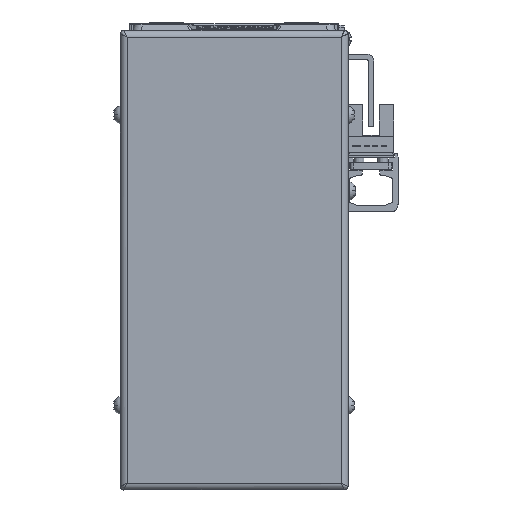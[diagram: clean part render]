
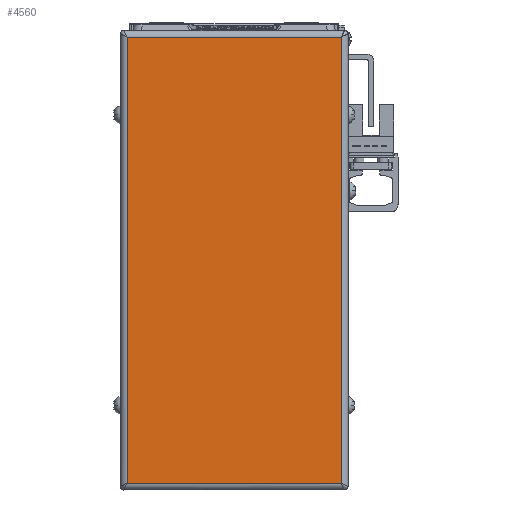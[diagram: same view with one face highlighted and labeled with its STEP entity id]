
A CAD part, left-side view. The second image highlights one B-rep face of the part: STEP entity #4560.
In plain terms, the highlighted planar face has unit normal (-1, 0, 0) as drawn and (0, 0, 1) by its records, which use the part's own axes.
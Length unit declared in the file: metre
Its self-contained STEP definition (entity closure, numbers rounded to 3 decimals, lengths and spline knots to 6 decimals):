
#4560=ADVANCED_FACE('',(#9615),#9616,.T.);
#9615=FACE_OUTER_BOUND('',#16157,.T.);
#9616=PLANE('',#16158);
#16157=EDGE_LOOP('',(#29758,#29759,#29760,#29761));
#16158=AXIS2_PLACEMENT_3D('',#29762,#29763,#29764);
#29758=ORIENTED_EDGE('',*,*,#41788,.F.);
#29759=ORIENTED_EDGE('',*,*,#42541,.F.);
#29760=ORIENTED_EDGE('',*,*,#41319,.F.);
#29761=ORIENTED_EDGE('',*,*,#41052,.F.);
#29762=CARTESIAN_POINT('',(-0.054,-0.014256,0.033889));
#29763=DIRECTION('',(0.0,0.0,1.0));
#29764=DIRECTION('',(1.0,0.0,0.0));
#41052=EDGE_CURVE('',#48775,#48777,#48778,.T.);
#41319=EDGE_CURVE('',#48777,#49229,#49230,.T.);
#41788=EDGE_CURVE('',#49942,#48775,#49944,.T.);
#42541=EDGE_CURVE('',#49229,#49942,#51025,.T.);
#48775=VERTEX_POINT('',#59395);
#48777=VERTEX_POINT('',#59406);
#48778=LINE('',#59407,#59408);
#49229=VERTEX_POINT('',#60038);
#49230=LINE('',#60039,#60040);
#49942=VERTEX_POINT('',#61073);
#49944=LINE('',#61084,#61085);
#51025=LINE('',#62831,#62832);
#59395=CARTESIAN_POINT('',(0.012,-0.045956,0.033889));
#59406=CARTESIAN_POINT('',(-0.12,-0.045956,0.033889));
#59407=CARTESIAN_POINT('',(-0.054,-0.045956,0.033889));
#59408=VECTOR('',#70582,1.0);
#60038=CARTESIAN_POINT('',(-0.12,0.017444,0.033889));
#60039=CARTESIAN_POINT('',(-0.12,-0.014256,0.033889));
#60040=VECTOR('',#70975,1.0);
#61073=CARTESIAN_POINT('',(0.012,0.017444,0.033889));
#61084=CARTESIAN_POINT('',(0.012,-0.014256,0.033889));
#61085=VECTOR('',#71515,1.0);
#62831=CARTESIAN_POINT('',(-0.054,0.017444,0.033889));
#62832=VECTOR('',#72311,1.0);
#70582=DIRECTION('',(-1.0,0.0,0.0));
#70975=DIRECTION('',(0.0,1.0,0.0));
#71515=DIRECTION('',(0.0,-1.0,0.0));
#72311=DIRECTION('',(1.0,0.0,0.0));
